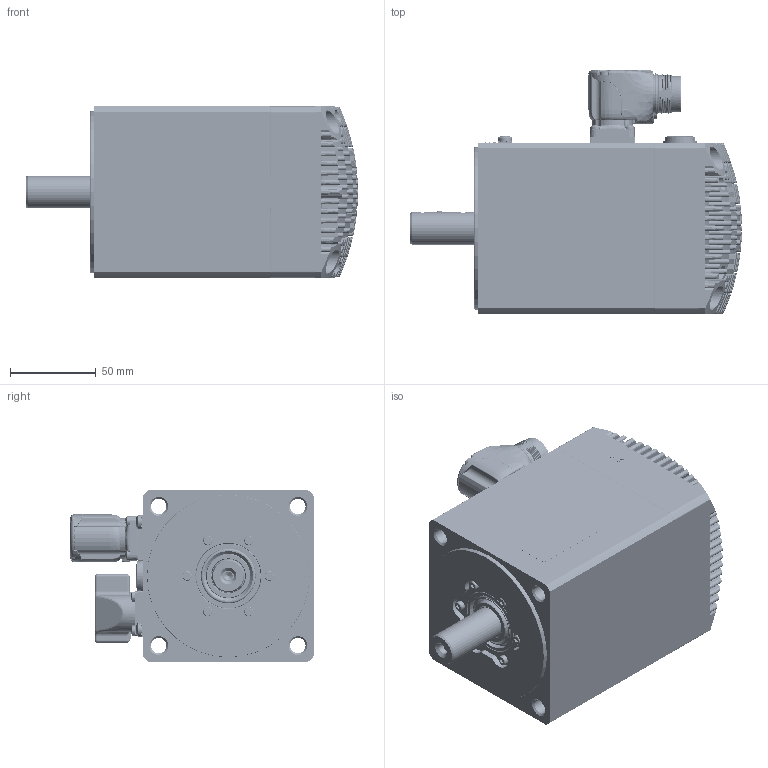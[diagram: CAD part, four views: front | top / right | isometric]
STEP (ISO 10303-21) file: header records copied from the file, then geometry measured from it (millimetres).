
FILE_DESCRIPTION((''),'2;1');
FILE_NAME('32190015650_ASM','2022-04-12T12:20:50',('gabrielec'),(''),'CREO PARAMETRIC BY PTC INC, 2021304','CREO PARAMETRIC BY PTC INC, 2021304','');
FILE_SCHEMA(('AP242_MANAGED_MODEL_BASED_3D_ENGINEERING_MIM_LF { 1 0 10303 442 1 1 4 }'));
Products named in the file (37): 52580N-0; 32149915564_ASM; 22320015067; 50938N-0; 22320015067_ASM; 32050015011_ASM; 32060015506_ASM; 51941N-1; 32090015023_ASM; NRG_001; M3X16_GBT70-1; GB_T862_1; M4X8_GBT818_CU; 32159915174_ASM; 22160015160; MENTOR-1292_9013; CEMBRE_FD9; CEMBRE_2053M16N; 32150015177_ASM; PHOENIX-1605586; 33000015098_AF8_ASM; UNI7687_M3X8_INOX; CORPO_3; 33200303857_AF4_ASM; 31500303857_AF4_ASM; 50941N-0; UNI7687_M3X6_INOX; UNI5931_M3X6_INOX; 22210015021; 32150015176_ASM; UNI5931_M4X16; LIP_SEAL_TW05; 22250015024; 22250015127; 43500000229; 43500000050; 32190015650_ASM
Assembly tree (64 placements, depth 7):
  32190015650_ASM
    32159915174_ASM
      32149915564_ASM
        52580N-0
      32090015023_ASM
        32060015506_ASM
          32050015011_ASM
            22320015067_ASM
              22320015067
              50938N-0
        51941N-1
      NRG_001  x6
      M3X16_GBT70-1  x6
      GB_T862_1  x2
      M4X8_GBT818_CU  x2
    32150015177_ASM
      22160015160
      MENTOR-1292_9013  x8
      CEMBRE_FD9
      CEMBRE_2053M16N
    33000015098_AF8_ASM
      PHOENIX-1605586
    UNI7687_M3X8_INOX  x4
    31500303857_AF4_ASM
      33200303857_AF4_ASM
        CORPO_3
    50941N-0  x2
    UNI7687_M3X6_INOX  x3
    UNI5931_M3X6_INOX
    32150015176_ASM
      22210015021
    UNI5931_M4X16  x4
    LIP_SEAL_TW05
    22250015024
    22250015127
    43500000229
    43500000050
Bounding box: 194 x 142.41 x 100.8 mm (x, y, z)
Volume: 574346.8 mm3; surface area: 278141.6 mm2
Topology: 73 solids, 101 shells, 4541 faces, 11404 edges, 7227 vertices
Faces by surface type: plane 1575, cylinder 1074, cone 659, bspline 612, torus 356, sphere 243, revolution 11, extrusion 11
Entity records: 197142 total; most frequent: CARTESIAN_POINT 67795, ORIENTED_EDGE 20112, DIRECTION 18212, PRESENTATION_STYLE_ASSIGNMENT 10467, EDGE_CURVE 10111, STYLED_ITEM 10108, CURVE_STYLE 10037, AXIS2_PLACEMENT_3D 7055
